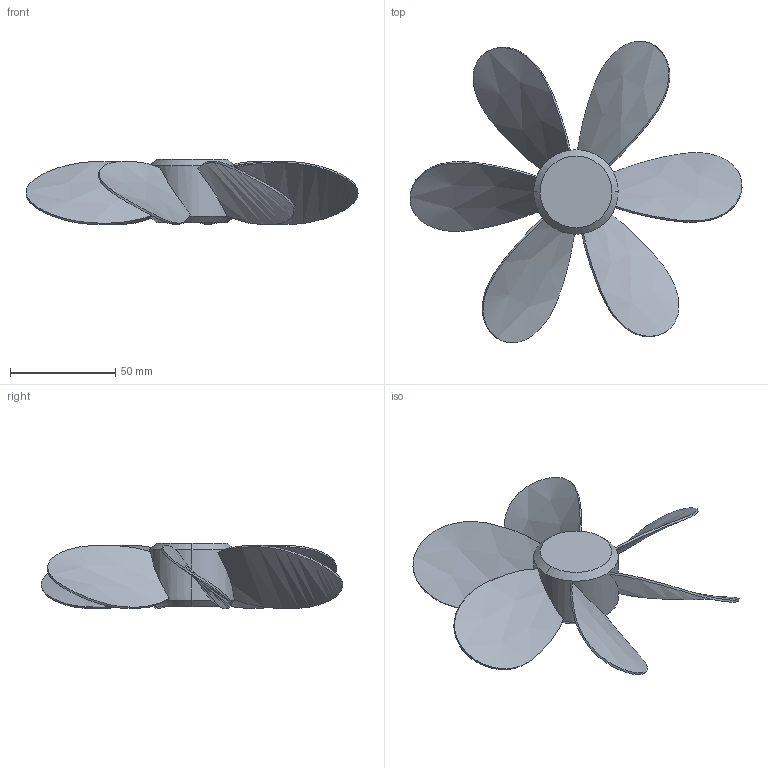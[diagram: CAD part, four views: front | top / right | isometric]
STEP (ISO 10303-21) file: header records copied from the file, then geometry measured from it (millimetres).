
FILE_DESCRIPTION (( 'STEP AP214' ), '1' );
FILE_NAME ('6-Blade Axial Fan.STEP', '2026-01-27T22:45:21', ( '' ), ( '' ), 'SwSTEP 2.0', 'SolidWorks 2025', '' );
FILE_SCHEMA (( 'AUTOMOTIVE_DESIGN' ));
Length unit declared in the file: millimetre
Products named in the file (1): 6-Blade Axial Fan
Bounding box: 157.43 x 142.95 x 31.02 mm (x, y, z)
Volume: 49523.5 mm3; surface area: 32275.2 mm2
Topology: 1 solids, 1 shells, 26 faces, 56 edges, 36 vertices
Faces by surface type: bspline 18, cone 4, cylinder 2, plane 2
Entity records: 5187 total; most frequent: CARTESIAN_POINT 4721, ORIENTED_EDGE 112, EDGE_CURVE 56, DIRECTION 42, B_SPLINE_CURVE_WITH_KNOTS 40, VERTEX_POINT 36, EDGE_LOOP 30, FACE_OUTER_BOUND 26
